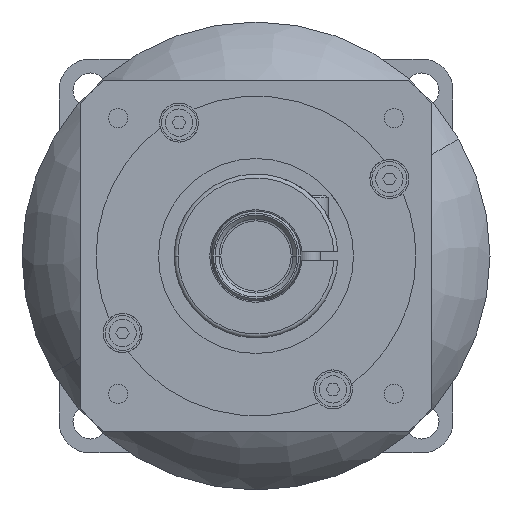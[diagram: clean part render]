
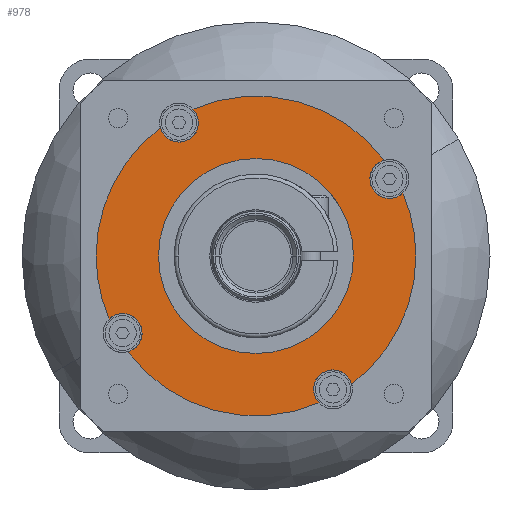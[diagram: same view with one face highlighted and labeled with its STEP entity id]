
A CAD part, left-side view. The second image highlights one B-rep face of the part: STEP entity #978.
In plain terms, the highlighted planar face has unit normal (-1, 0, 0).
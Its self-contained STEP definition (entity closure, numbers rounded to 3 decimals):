
#978=ADVANCED_FACE('',(#2001,#2002),#2003,.F.);
#2001=FACE_BOUND('',#3273,.T.);
#2002=FACE_OUTER_BOUND('',#3274,.T.);
#2003=PLANE('',#3275);
#3273=EDGE_LOOP('',(#5873,#5874));
#3274=EDGE_LOOP('',(#5875,#5876,#5877,#5878,#5879,#5880,#5881,#5882,#5883,#5884,#5885,#5886,#5887,#5888));
#3275=AXIS2_PLACEMENT_3D('',#5889,#5890,#5891);
#5873=ORIENTED_EDGE('',*,*,#7116,.T.);
#5874=ORIENTED_EDGE('',*,*,#7307,.T.);
#5875=ORIENTED_EDGE('',*,*,#7101,.F.);
#5876=ORIENTED_EDGE('',*,*,#7310,.F.);
#5877=ORIENTED_EDGE('',*,*,#7106,.F.);
#5878=ORIENTED_EDGE('',*,*,#7311,.F.);
#5879=ORIENTED_EDGE('',*,*,#7082,.F.);
#5880=ORIENTED_EDGE('',*,*,#7312,.F.);
#5881=ORIENTED_EDGE('',*,*,#7058,.F.);
#5882=ORIENTED_EDGE('',*,*,#7313,.F.);
#5883=ORIENTED_EDGE('',*,*,#7109,.F.);
#5884=ORIENTED_EDGE('',*,*,#7314,.F.);
#5885=ORIENTED_EDGE('',*,*,#7092,.F.);
#5886=ORIENTED_EDGE('',*,*,#7315,.F.);
#5887=ORIENTED_EDGE('',*,*,#7316,.F.);
#5888=ORIENTED_EDGE('',*,*,#7317,.F.);
#5889=CARTESIAN_POINT('',(-64.0,0.0,0.0));
#5890=DIRECTION('',(1.0,0.0,0.0));
#5891=DIRECTION('',(0.0,1.0,0.0));
#7058=EDGE_CURVE('',#8507,#8509,#8510,.T.);
#7082=EDGE_CURVE('',#8551,#8543,#8553,.T.);
#7092=EDGE_CURVE('',#8569,#8571,#8572,.T.);
#7101=EDGE_CURVE('',#8586,#8578,#8588,.T.);
#7106=EDGE_CURVE('',#8595,#8591,#8597,.T.);
#7109=EDGE_CURVE('',#8599,#8602,#8603,.T.);
#7116=EDGE_CURVE('',#8609,#8613,#8615,.T.);
#7307=EDGE_CURVE('',#8613,#8609,#8891,.T.);
#7310=EDGE_CURVE('',#8591,#8586,#8894,.T.);
#7311=EDGE_CURVE('',#8543,#8595,#8895,.T.);
#7312=EDGE_CURVE('',#8509,#8551,#8896,.T.);
#7313=EDGE_CURVE('',#8602,#8507,#8897,.T.);
#7314=EDGE_CURVE('',#8571,#8599,#8898,.T.);
#7315=EDGE_CURVE('',#8899,#8569,#8900,.T.);
#7316=EDGE_CURVE('',#8901,#8899,#8902,.T.);
#7317=EDGE_CURVE('',#8578,#8901,#8903,.T.);
#8507=VERTEX_POINT('',#11060);
#8509=VERTEX_POINT('',#11063);
#8510=CIRCLE('',#11064,5.0);
#8543=VERTEX_POINT('',#11104);
#8551=VERTEX_POINT('',#11114);
#8553=CIRCLE('',#11117,5.0);
#8569=VERTEX_POINT('',#11136);
#8571=VERTEX_POINT('',#11139);
#8572=CIRCLE('',#11140,5.0);
#8578=VERTEX_POINT('',#11147);
#8586=VERTEX_POINT('',#11157);
#8588=CIRCLE('',#11160,5.0);
#8591=VERTEX_POINT('',#11163);
#8595=VERTEX_POINT('',#11168);
#8597=CIRCLE('',#11171,41.0);
#8599=VERTEX_POINT('',#11173);
#8602=VERTEX_POINT('',#11177);
#8603=CIRCLE('',#11178,41.0);
#8609=VERTEX_POINT('',#11185);
#8613=VERTEX_POINT('',#11190);
#8615=CIRCLE('',#11193,25.0);
#8891=CIRCLE('',#11626,25.0);
#8894=CIRCLE('',#11629,41.0);
#8895=CIRCLE('',#11630,5.0);
#8896=CIRCLE('',#11631,41.0);
#8897=CIRCLE('',#11632,5.0);
#8898=CIRCLE('',#11633,41.0);
#8899=VERTEX_POINT('',#11634);
#8900=CIRCLE('',#11635,5.0);
#8901=VERTEX_POINT('',#11636);
#8902=CIRCLE('',#11637,41.0);
#8903=CIRCLE('',#11638,5.0);
#11060=CARTESIAN_POINT('',(-64.0,14.75,34.208));
#11063=CARTESIAN_POINT('',(-64.0,16.155,37.683));
#11064=AXIS2_PLACEMENT_3D('',#13129,#13130,#13131);
#11104=CARTESIAN_POINT('',(-64.0,-29.208,19.75));
#11114=CARTESIAN_POINT('',(-64.0,-32.832,24.557));
#11117=AXIS2_PLACEMENT_3D('',#13169,#13170,#13171);
#11136=CARTESIAN_POINT('',(-64.0,29.208,-19.75));
#11139=CARTESIAN_POINT('',(-64.0,37.683,-16.155));
#11140=AXIS2_PLACEMENT_3D('',#13185,#13186,#13187);
#11147=CARTESIAN_POINT('',(-64.0,-14.75,-34.208));
#11157=CARTESIAN_POINT('',(-64.0,-24.557,-32.832));
#11160=AXIS2_PLACEMENT_3D('',#13201,#13202,#13203);
#11163=CARTESIAN_POINT('',(-64.0,-41.0,0.));
#11168=CARTESIAN_POINT('',(-64.0,-37.683,16.155));
#11171=AXIS2_PLACEMENT_3D('',#13209,#13210,#13211);
#11173=CARTESIAN_POINT('',(-64.0,41.0,0.));
#11177=CARTESIAN_POINT('',(-64.0,24.557,32.832));
#11178=AXIS2_PLACEMENT_3D('',#13213,#13214,#13215);
#11185=CARTESIAN_POINT('',(-64.0,25.0,0.0));
#11190=CARTESIAN_POINT('',(-64.0,-25.0,0.));
#11193=AXIS2_PLACEMENT_3D('',#13225,#13226,#13227);
#11626=AXIS2_PLACEMENT_3D('',#13432,#13433,#13434);
#11629=AXIS2_PLACEMENT_3D('',#13438,#13439,#13440);
#11630=AXIS2_PLACEMENT_3D('',#13441,#13442,#13443);
#11631=AXIS2_PLACEMENT_3D('',#13444,#13445,#13446);
#11632=AXIS2_PLACEMENT_3D('',#13447,#13448,#13449);
#11633=AXIS2_PLACEMENT_3D('',#13450,#13451,#13452);
#11634=CARTESIAN_POINT('',(-64.0,32.832,-24.557));
#11635=AXIS2_PLACEMENT_3D('',#13453,#13454,#13455);
#11636=CARTESIAN_POINT('',(-64.0,-16.155,-37.683));
#11637=AXIS2_PLACEMENT_3D('',#13456,#13457,#13458);
#11638=AXIS2_PLACEMENT_3D('',#13459,#13460,#13461);
#13129=CARTESIAN_POINT('',(-64.0,19.75,34.208));
#13130=DIRECTION('',(-1.0,0.0,0.0));
#13131=DIRECTION('',(0.0,1.0,0.0));
#13169=CARTESIAN_POINT('',(-64.0,-34.208,19.75));
#13170=DIRECTION('',(-1.0,0.0,0.0));
#13171=DIRECTION('',(0.0,1.0,0.0));
#13185=CARTESIAN_POINT('',(-64.0,34.208,-19.75));
#13186=DIRECTION('',(-1.0,0.0,0.0));
#13187=DIRECTION('',(0.0,1.0,0.0));
#13201=CARTESIAN_POINT('',(-64.0,-19.75,-34.208));
#13202=DIRECTION('',(-1.0,0.0,0.0));
#13203=DIRECTION('',(0.0,1.0,0.0));
#13209=CARTESIAN_POINT('',(-64.0,0.0,0.0));
#13210=DIRECTION('',(1.0,0.0,0.0));
#13211=DIRECTION('',(0.0,1.0,0.0));
#13213=CARTESIAN_POINT('',(-64.0,0.0,0.0));
#13214=DIRECTION('',(1.0,0.0,0.0));
#13215=DIRECTION('',(0.0,1.0,0.0));
#13225=CARTESIAN_POINT('',(-64.0,0.0,0.0));
#13226=DIRECTION('',(1.0,0.0,0.0));
#13227=DIRECTION('',(0.0,1.0,0.0));
#13432=CARTESIAN_POINT('',(-64.0,0.0,0.0));
#13433=DIRECTION('',(1.0,0.0,0.0));
#13434=DIRECTION('',(0.0,1.0,0.0));
#13438=CARTESIAN_POINT('',(-64.0,0.0,0.0));
#13439=DIRECTION('',(1.0,0.0,0.0));
#13440=DIRECTION('',(0.0,1.0,0.0));
#13441=CARTESIAN_POINT('',(-64.0,-34.208,19.75));
#13442=DIRECTION('',(-1.0,0.0,0.0));
#13443=DIRECTION('',(0.0,1.0,0.0));
#13444=CARTESIAN_POINT('',(-64.0,0.0,0.0));
#13445=DIRECTION('',(1.0,0.0,0.0));
#13446=DIRECTION('',(0.0,1.0,0.0));
#13447=CARTESIAN_POINT('',(-64.0,19.75,34.208));
#13448=DIRECTION('',(-1.0,0.0,0.0));
#13449=DIRECTION('',(0.0,1.0,0.0));
#13450=CARTESIAN_POINT('',(-64.0,0.0,0.0));
#13451=DIRECTION('',(1.0,0.0,0.0));
#13452=DIRECTION('',(0.0,1.0,0.0));
#13453=CARTESIAN_POINT('',(-64.0,34.208,-19.75));
#13454=DIRECTION('',(-1.0,0.0,0.0));
#13455=DIRECTION('',(0.0,1.0,0.0));
#13456=CARTESIAN_POINT('',(-64.0,0.0,0.0));
#13457=DIRECTION('',(1.0,0.0,0.0));
#13458=DIRECTION('',(0.0,1.0,0.0));
#13459=CARTESIAN_POINT('',(-64.0,-19.75,-34.208));
#13460=DIRECTION('',(-1.0,0.0,0.0));
#13461=DIRECTION('',(0.0,1.0,0.0));
